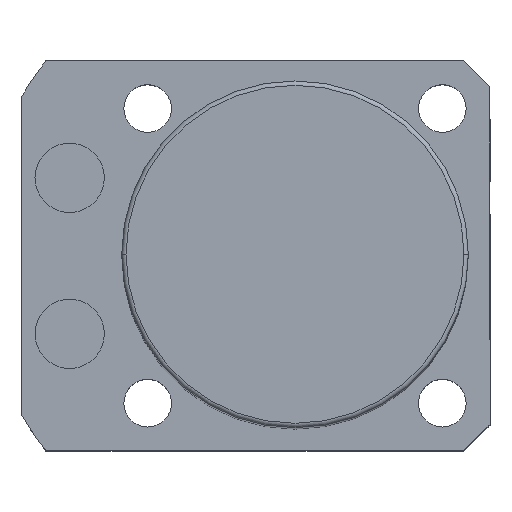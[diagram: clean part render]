
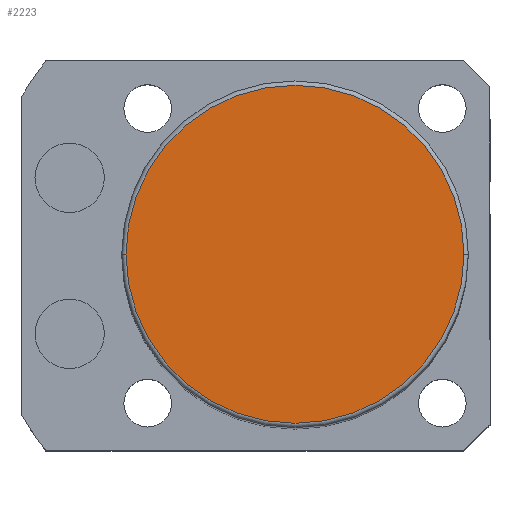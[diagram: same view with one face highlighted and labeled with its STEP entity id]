
A CAD part, top view. The second image highlights one B-rep face of the part: STEP entity #2223.
In plain terms, the highlighted planar face has unit normal (0, 0, 1).
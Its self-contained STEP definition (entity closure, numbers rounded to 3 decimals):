
#151 = DIRECTION ( 'NONE',  ( 1., 0., 0. ) ) ;
#247 = ORIENTED_EDGE ( 'NONE', *, *, #2325, .T. ) ;
#336 = CARTESIAN_POINT ( 'NONE',  ( 0., 0., 113.5 ) ) ;
#363 = AXIS2_PLACEMENT_3D ( 'NONE', #1430, #1058, #1772 ) ;
#403 = EDGE_LOOP ( 'NONE', ( #247, #1078 ) ) ;
#629 = CIRCLE ( 'NONE', #363, 19.5 ) ;
#737 = VERTEX_POINT ( 'NONE', #1467 ) ;
#745 = CIRCLE ( 'NONE', #2138, 19.5 ) ;
#860 = DIRECTION ( 'NONE',  ( 0., 0., 1. ) ) ;
#979 = CARTESIAN_POINT ( 'NONE',  ( 19.5, 0., 113.5 ) ) ;
#1058 = DIRECTION ( 'NONE',  ( 0., 0., 1. ) ) ;
#1078 = ORIENTED_EDGE ( 'NONE', *, *, #1311, .T. ) ;
#1219 = AXIS2_PLACEMENT_3D ( 'NONE', #1250, #860, #1258 ) ;
#1250 = CARTESIAN_POINT ( 'NONE',  ( 0., 0., 113.5 ) ) ;
#1258 = DIRECTION ( 'NONE',  ( 1., 0., 0. ) ) ;
#1311 = EDGE_CURVE ( 'NONE', #737, #2073, #629, .T. ) ;
#1430 = CARTESIAN_POINT ( 'NONE',  ( 0., 0., 113.5 ) ) ;
#1467 = CARTESIAN_POINT ( 'NONE',  ( -19.5, 0., 113.5 ) ) ;
#1621 = FACE_OUTER_BOUND ( 'NONE', #403, .T. ) ;
#1772 = DIRECTION ( 'NONE',  ( 1., 0., 0. ) ) ;
#1998 = DIRECTION ( 'NONE',  ( 0., 0., 1. ) ) ;
#2073 = VERTEX_POINT ( 'NONE', #979 ) ;
#2123 = PLANE ( 'NONE',  #1219 ) ;
#2138 = AXIS2_PLACEMENT_3D ( 'NONE', #336, #1998, #151 ) ;
#2223 = ADVANCED_FACE ( 'NONE', ( #1621 ), #2123, .T. ) ;
#2325 = EDGE_CURVE ( 'NONE', #2073, #737, #745, .T. ) ;
